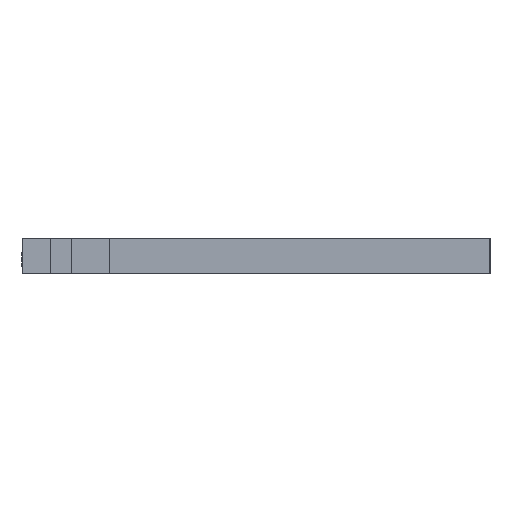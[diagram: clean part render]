
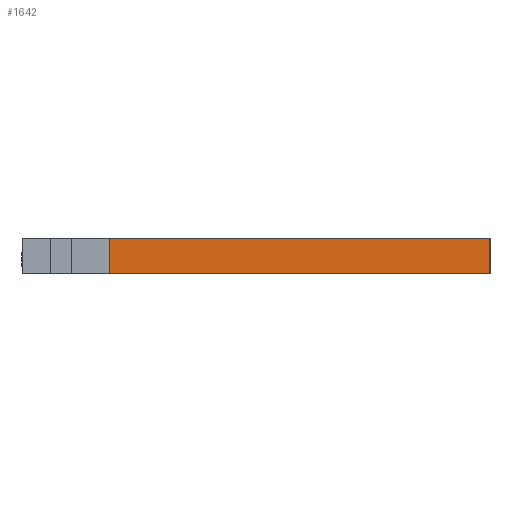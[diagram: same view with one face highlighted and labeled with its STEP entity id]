
A CAD part, left-side view. The second image highlights one B-rep face of the part: STEP entity #1642.
In plain terms, the highlighted planar face has unit normal (-1, 0, 0).
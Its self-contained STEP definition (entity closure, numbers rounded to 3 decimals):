
#182=PLANE('',#1754);
#265=FACE_OUTER_BOUND('',#344,.T.);
#344=EDGE_LOOP('',(#1235,#1236,#1237,#1238,#1239));
#480=LINE('',#2384,#626);
#482=LINE('',#2390,#628);
#483=LINE('',#2392,#629);
#484=LINE('',#2394,#630);
#485=LINE('',#2395,#631);
#626=VECTOR('',#1942,10.);
#628=VECTOR('',#1948,10.);
#629=VECTOR('',#1949,10.);
#630=VECTOR('',#1950,10.);
#631=VECTOR('',#1951,10.);
#849=VERTEX_POINT('',#2382);
#850=VERTEX_POINT('',#2383);
#852=VERTEX_POINT('',#2389);
#853=VERTEX_POINT('',#2391);
#854=VERTEX_POINT('',#2393);
#999=EDGE_CURVE('',#849,#850,#480,.T.);
#1002=EDGE_CURVE('',#850,#852,#482,.T.);
#1003=EDGE_CURVE('',#853,#852,#483,.T.);
#1004=EDGE_CURVE('',#854,#853,#484,.T.);
#1005=EDGE_CURVE('',#849,#854,#485,.T.);
#1235=ORIENTED_EDGE('',*,*,#999,.T.);
#1236=ORIENTED_EDGE('',*,*,#1002,.T.);
#1237=ORIENTED_EDGE('',*,*,#1003,.F.);
#1238=ORIENTED_EDGE('',*,*,#1004,.F.);
#1239=ORIENTED_EDGE('',*,*,#1005,.F.);
#1642=ADVANCED_FACE('',(#265),#182,.T.);
#1754=AXIS2_PLACEMENT_3D('',#2388,#1946,#1947);
#1942=DIRECTION('',(0.,0.515,-0.857));
#1946=DIRECTION('center_axis',(-1.,0.,0.));
#1947=DIRECTION('ref_axis',(0.,1.,0.));
#1948=DIRECTION('',(0.,0.,-1.));
#1949=DIRECTION('',(0.,1.,0.));
#1950=DIRECTION('',(0.,0.,-1.));
#1951=DIRECTION('',(0.,-1.,0.));
#2382=CARTESIAN_POINT('',(-165.75,20.745,0.));
#2383=CARTESIAN_POINT('',(-165.75,20.85,-0.174));
#2384=CARTESIAN_POINT('',(-165.75,21.048,-0.503));
#2388=CARTESIAN_POINT('Origin',(-165.75,-33.35,0.));
#2389=CARTESIAN_POINT('',(-165.75,20.85,-5.));
#2390=CARTESIAN_POINT('',(-165.75,20.85,0.));
#2391=CARTESIAN_POINT('',(-165.75,-33.35,-5.));
#2392=CARTESIAN_POINT('',(-165.75,20.85,-5.));
#2393=CARTESIAN_POINT('',(-165.75,-33.35,0.));
#2394=CARTESIAN_POINT('',(-165.75,-33.35,0.));
#2395=CARTESIAN_POINT('',(-165.75,20.85,0.));
